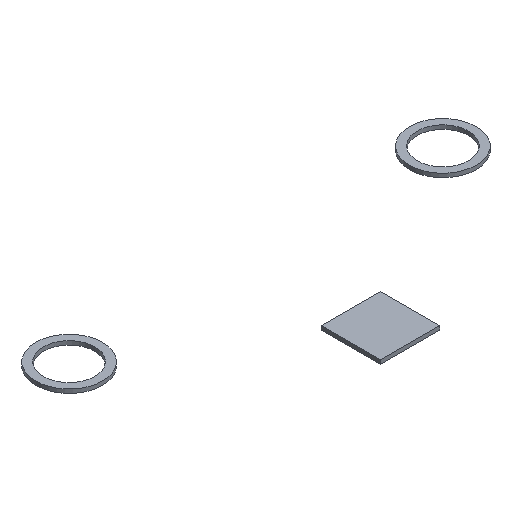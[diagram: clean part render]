
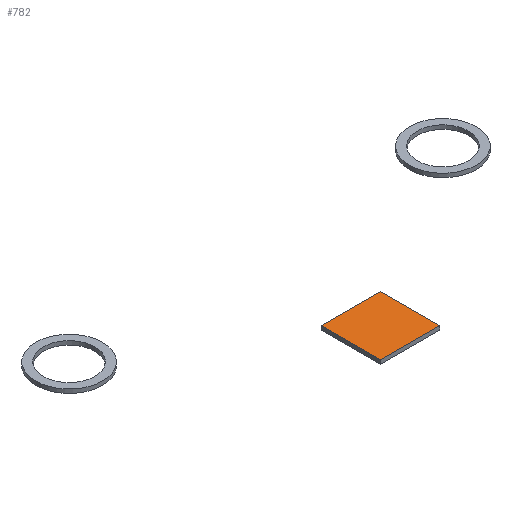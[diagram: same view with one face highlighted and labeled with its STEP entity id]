
A CAD part, isometric view. The second image highlights one B-rep face of the part: STEP entity #782.
In plain terms, the highlighted planar face has unit normal (0, 0, 1).
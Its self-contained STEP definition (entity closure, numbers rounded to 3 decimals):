
#468 = VERTEX_POINT('',#469);
#469 = CARTESIAN_POINT('',(-1.9,-59.9,9.25));
#476 = PLANE('',#477);
#477 = AXIS2_PLACEMENT_3D('',#478,#479,#480);
#478 = CARTESIAN_POINT('',(-1.9,-59.9,9.));
#479 = DIRECTION('',(1.,0.,0.));
#480 = DIRECTION('',(0.,0.,1.));
#488 = PLANE('',#489);
#489 = AXIS2_PLACEMENT_3D('',#490,#491,#492);
#490 = CARTESIAN_POINT('',(-1.9,-59.9,9.));
#491 = DIRECTION('',(0.,1.,0.));
#492 = DIRECTION('',(0.,0.,1.));
#529 = VERTEX_POINT('',#530);
#530 = CARTESIAN_POINT('',(-1.9,-56.1,9.25));
#544 = PLANE('',#545);
#545 = AXIS2_PLACEMENT_3D('',#546,#547,#548);
#546 = CARTESIAN_POINT('',(-1.9,-56.1,9.));
#547 = DIRECTION('',(0.,1.,0.));
#548 = DIRECTION('',(0.,0.,1.));
#556 = EDGE_CURVE('',#468,#529,#557,.T.);
#557 = SURFACE_CURVE('',#558,(#562,#569),.PCURVE_S1.);
#558 = LINE('',#559,#560);
#559 = CARTESIAN_POINT('',(-1.9,-59.9,9.25));
#560 = VECTOR('',#561,1.);
#561 = DIRECTION('',(0.,1.,0.));
#562 = PCURVE('',#476,#563);
#563 = DEFINITIONAL_REPRESENTATION('',(#564),#568);
#564 = LINE('',#565,#566);
#565 = CARTESIAN_POINT('',(0.25,0.));
#566 = VECTOR('',#567,1.);
#567 = DIRECTION('',(0.,-1.));
#568 = ( GEOMETRIC_REPRESENTATION_CONTEXT(2) 
PARAMETRIC_REPRESENTATION_CONTEXT() REPRESENTATION_CONTEXT('2D SPACE',''
  ) );
#569 = PCURVE('',#570,#575);
#570 = PLANE('',#571);
#571 = AXIS2_PLACEMENT_3D('',#572,#573,#574);
#572 = CARTESIAN_POINT('',(-1.9,-59.9,9.25));
#573 = DIRECTION('',(0.,0.,1.));
#574 = DIRECTION('',(1.,0.,0.));
#575 = DEFINITIONAL_REPRESENTATION('',(#576),#580);
#576 = LINE('',#577,#578);
#577 = CARTESIAN_POINT('',(0.,0.));
#578 = VECTOR('',#579,1.);
#579 = DIRECTION('',(0.,1.));
#580 = ( GEOMETRIC_REPRESENTATION_CONTEXT(2) 
PARAMETRIC_REPRESENTATION_CONTEXT() REPRESENTATION_CONTEXT('2D SPACE',''
  ) );
#588 = VERTEX_POINT('',#589);
#589 = CARTESIAN_POINT('',(1.9,-59.9,9.25));
#596 = PLANE('',#597);
#597 = AXIS2_PLACEMENT_3D('',#598,#599,#600);
#598 = CARTESIAN_POINT('',(1.9,-59.9,9.));
#599 = DIRECTION('',(1.,0.,0.));
#600 = DIRECTION('',(0.,0.,1.));
#639 = VERTEX_POINT('',#640);
#640 = CARTESIAN_POINT('',(1.9,-56.1,9.25));
#661 = EDGE_CURVE('',#588,#639,#662,.T.);
#662 = SURFACE_CURVE('',#663,(#667,#674),.PCURVE_S1.);
#663 = LINE('',#664,#665);
#664 = CARTESIAN_POINT('',(1.9,-59.9,9.25));
#665 = VECTOR('',#666,1.);
#666 = DIRECTION('',(0.,1.,0.));
#667 = PCURVE('',#596,#668);
#668 = DEFINITIONAL_REPRESENTATION('',(#669),#673);
#669 = LINE('',#670,#671);
#670 = CARTESIAN_POINT('',(0.25,0.));
#671 = VECTOR('',#672,1.);
#672 = DIRECTION('',(0.,-1.));
#673 = ( GEOMETRIC_REPRESENTATION_CONTEXT(2) 
PARAMETRIC_REPRESENTATION_CONTEXT() REPRESENTATION_CONTEXT('2D SPACE',''
  ) );
#674 = PCURVE('',#570,#675);
#675 = DEFINITIONAL_REPRESENTATION('',(#676),#680);
#676 = LINE('',#677,#678);
#677 = CARTESIAN_POINT('',(3.8,0.));
#678 = VECTOR('',#679,1.);
#679 = DIRECTION('',(0.,1.));
#680 = ( GEOMETRIC_REPRESENTATION_CONTEXT(2) 
PARAMETRIC_REPRESENTATION_CONTEXT() REPRESENTATION_CONTEXT('2D SPACE',''
  ) );
#707 = EDGE_CURVE('',#468,#588,#708,.T.);
#708 = SURFACE_CURVE('',#709,(#713,#720),.PCURVE_S1.);
#709 = LINE('',#710,#711);
#710 = CARTESIAN_POINT('',(-1.9,-59.9,9.25));
#711 = VECTOR('',#712,1.);
#712 = DIRECTION('',(1.,0.,0.));
#713 = PCURVE('',#488,#714);
#714 = DEFINITIONAL_REPRESENTATION('',(#715),#719);
#715 = LINE('',#716,#717);
#716 = CARTESIAN_POINT('',(0.25,0.));
#717 = VECTOR('',#718,1.);
#718 = DIRECTION('',(0.,1.));
#719 = ( GEOMETRIC_REPRESENTATION_CONTEXT(2) 
PARAMETRIC_REPRESENTATION_CONTEXT() REPRESENTATION_CONTEXT('2D SPACE',''
  ) );
#720 = PCURVE('',#570,#721);
#721 = DEFINITIONAL_REPRESENTATION('',(#722),#726);
#722 = LINE('',#723,#724);
#723 = CARTESIAN_POINT('',(0.,0.));
#724 = VECTOR('',#725,1.);
#725 = DIRECTION('',(1.,0.));
#726 = ( GEOMETRIC_REPRESENTATION_CONTEXT(2) 
PARAMETRIC_REPRESENTATION_CONTEXT() REPRESENTATION_CONTEXT('2D SPACE',''
  ) );
#754 = EDGE_CURVE('',#529,#639,#755,.T.);
#755 = SURFACE_CURVE('',#756,(#760,#767),.PCURVE_S1.);
#756 = LINE('',#757,#758);
#757 = CARTESIAN_POINT('',(-1.9,-56.1,9.25));
#758 = VECTOR('',#759,1.);
#759 = DIRECTION('',(1.,0.,0.));
#760 = PCURVE('',#544,#761);
#761 = DEFINITIONAL_REPRESENTATION('',(#762),#766);
#762 = LINE('',#763,#764);
#763 = CARTESIAN_POINT('',(0.25,0.));
#764 = VECTOR('',#765,1.);
#765 = DIRECTION('',(0.,1.));
#766 = ( GEOMETRIC_REPRESENTATION_CONTEXT(2) 
PARAMETRIC_REPRESENTATION_CONTEXT() REPRESENTATION_CONTEXT('2D SPACE',''
  ) );
#767 = PCURVE('',#570,#768);
#768 = DEFINITIONAL_REPRESENTATION('',(#769),#773);
#769 = LINE('',#770,#771);
#770 = CARTESIAN_POINT('',(0.,3.8));
#771 = VECTOR('',#772,1.);
#772 = DIRECTION('',(1.,0.));
#773 = ( GEOMETRIC_REPRESENTATION_CONTEXT(2) 
PARAMETRIC_REPRESENTATION_CONTEXT() REPRESENTATION_CONTEXT('2D SPACE',''
  ) );
#782 = ADVANCED_FACE('',(#783),#570,.T.);
#783 = FACE_BOUND('',#784,.T.);
#784 = EDGE_LOOP('',(#785,#786,#787,#788));
#785 = ORIENTED_EDGE('',*,*,#556,.F.);
#786 = ORIENTED_EDGE('',*,*,#707,.T.);
#787 = ORIENTED_EDGE('',*,*,#661,.T.);
#788 = ORIENTED_EDGE('',*,*,#754,.F.);
